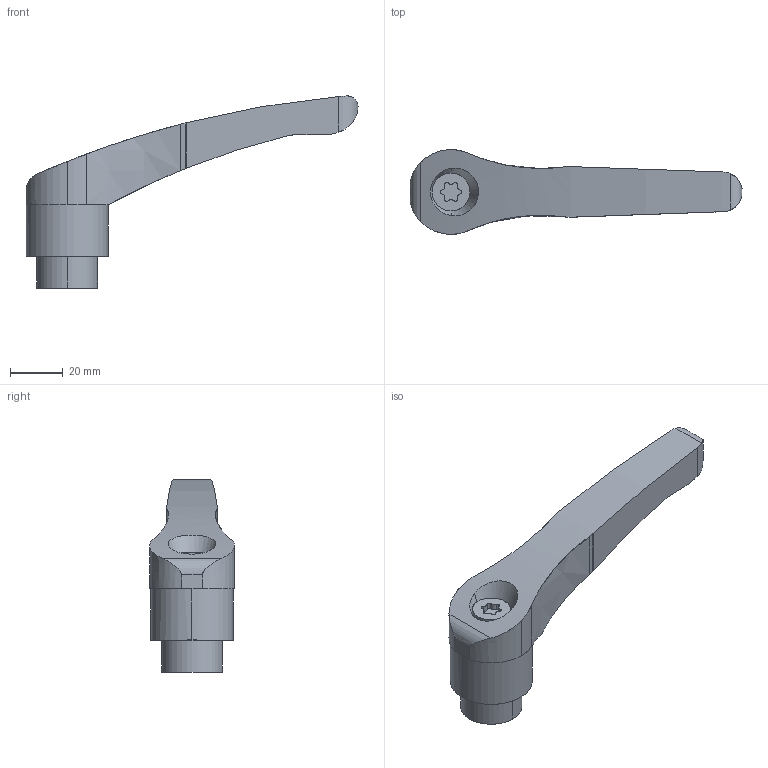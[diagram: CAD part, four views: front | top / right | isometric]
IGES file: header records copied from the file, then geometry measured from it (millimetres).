
Start section: SolidWorks IGES file using analytic representation for surfaces
Global section: file name: X:\11_SW2020-Inv2020\00_全2021-11新製品まで\f\FKF16-BR\fkf16-br.IGS; native system: SolidWorks 2020; preprocessor: SolidWorks 2020; author: ImaoCorp; date: 211026.090325; units: millimetre
Bounding box: 125.41 x 32 x 72.63 mm (x, y, z)
Surface area: 13715.8 mm2 (no closed solid volume)
Topology: 0 solids, 0 shells, 63 faces, 1030 edges, 1030 vertices
Faces by surface type: revolution 49, bspline 14
